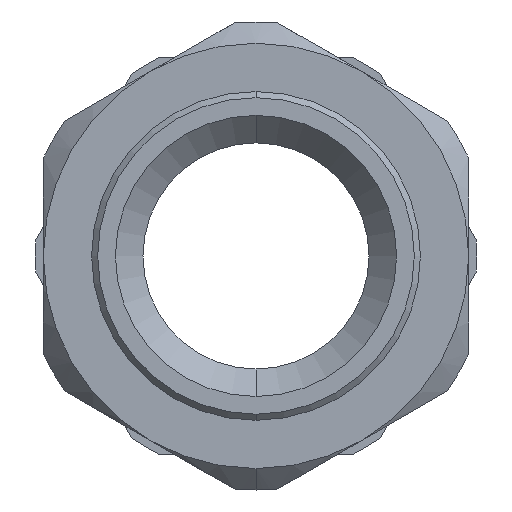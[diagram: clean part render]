
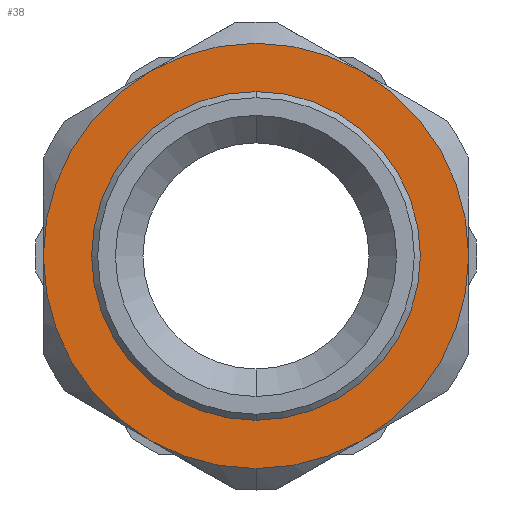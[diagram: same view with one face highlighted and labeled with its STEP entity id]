
A CAD part, front view. The second image highlights one B-rep face of the part: STEP entity #38.
In plain terms, the highlighted planar face has unit normal (0, -1, 0).
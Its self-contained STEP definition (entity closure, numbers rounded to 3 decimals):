
#38 = ADVANCED_FACE ( 'NONE', ( #850, #853 ), #2263, .F. ) ;
#89 = EDGE_CURVE ( 'NONE', #1937, #1948, #1303, .T. ) ;
#90 = EDGE_CURVE ( 'NONE', #1837, #1762, #1302, .T. ) ;
#92 = EDGE_CURVE ( 'NONE', #1842, #1925, #1300, .T. ) ;
#105 = EDGE_CURVE ( 'NONE', #1955, #1941, #1294, .T. ) ;
#110 = EDGE_CURVE ( 'NONE', #1941, #1842, #1292, .T. ) ;
#134 = EDGE_CURVE ( 'NONE', #1925, #1937, #1282, .T. ) ;
#143 = EDGE_CURVE ( 'NONE', #2058, #1955, #1278, .T. ) ;
#167 = EDGE_CURVE ( 'NONE', #1948, #2058, #1267, .T. ) ;
#189 = EDGE_CURVE ( 'NONE', #1762, #1837, #1258, .T. ) ;
#298 = CARTESIAN_POINT ( 'NONE',  ( 8.7, 1., 15.069 ) ) ;
#349 = CARTESIAN_POINT ( 'NONE',  ( -8.7, 1., -15.069 ) ) ;
#362 = DIRECTION ( 'NONE',  ( 0., -1., 0. ) ) ;
#364 = CARTESIAN_POINT ( 'NONE',  ( 0., 1., 0. ) ) ;
#369 = DIRECTION ( 'NONE',  ( 0., 0., -1. ) ) ;
#370 = CARTESIAN_POINT ( 'NONE',  ( 17.4, 1., 0. ) ) ;
#408 = CARTESIAN_POINT ( 'NONE',  ( 8.7, 1., -15.069 ) ) ;
#431 = CARTESIAN_POINT ( 'NONE',  ( 0., 1., -17.4 ) ) ;
#436 = CARTESIAN_POINT ( 'NONE',  ( 0., 1., 13.45 ) ) ;
#447 = CARTESIAN_POINT ( 'NONE',  ( 0., 1., -13.45 ) ) ;
#488 = CARTESIAN_POINT ( 'NONE',  ( -8.7, 1., 15.069 ) ) ;
#773 = CARTESIAN_POINT ( 'NONE',  ( -17.4, 1., 0. ) ) ;
#850 = FACE_BOUND ( 'NONE', #2372, .T. ) ;
#853 = FACE_OUTER_BOUND ( 'NONE', #2368, .T. ) ;
#868 = AXIS2_PLACEMENT_3D ( 'NONE', #2262, #2261, #2260 ) ;
#946 = AXIS2_PLACEMENT_3D ( 'NONE', #364, #362, #369 ) ;
#976 = AXIS2_PLACEMENT_3D ( 'NONE', #1350, #1349, #1348 ) ;
#999 = AXIS2_PLACEMENT_3D ( 'NONE', #1464, #1457, #1456 ) ;
#1010 = AXIS2_PLACEMENT_3D ( 'NONE', #1489, #1488, #1487 ) ;
#1027 = AXIS2_PLACEMENT_3D ( 'NONE', #1570, #1569, #1568 ) ;
#1032 = AXIS2_PLACEMENT_3D ( 'NONE', #1592, #1591, #1590 ) ;
#1044 = AXIS2_PLACEMENT_3D ( 'NONE', #1638, #1637, #1636 ) ;
#1045 = AXIS2_PLACEMENT_3D ( 'NONE', #1644, #1643, #1642 ) ;
#1050 = AXIS2_PLACEMENT_3D ( 'NONE', #1653, #1646, #1645 ) ;
#1258 = CIRCLE ( 'NONE', #946, 13.45 ) ;
#1267 = CIRCLE ( 'NONE', #976, 17.4 ) ;
#1278 = CIRCLE ( 'NONE', #999, 17.4 ) ;
#1282 = CIRCLE ( 'NONE', #1010, 17.4 ) ;
#1292 = CIRCLE ( 'NONE', #1027, 17.4 ) ;
#1294 = CIRCLE ( 'NONE', #1032, 17.4 ) ;
#1300 = CIRCLE ( 'NONE', #1044, 17.4 ) ;
#1302 = CIRCLE ( 'NONE', #1045, 13.45 ) ;
#1303 = CIRCLE ( 'NONE', #1050, 17.4 ) ;
#1348 = DIRECTION ( 'NONE',  ( 0., 0., -1. ) ) ;
#1349 = DIRECTION ( 'NONE',  ( 0., -1., 0. ) ) ;
#1350 = CARTESIAN_POINT ( 'NONE',  ( 0., 1., 0. ) ) ;
#1456 = DIRECTION ( 'NONE',  ( 0., 0., -1. ) ) ;
#1457 = DIRECTION ( 'NONE',  ( 0., -1., 0. ) ) ;
#1464 = CARTESIAN_POINT ( 'NONE',  ( 0., 1., 0. ) ) ;
#1487 = DIRECTION ( 'NONE',  ( 0., 0., -1. ) ) ;
#1488 = DIRECTION ( 'NONE',  ( 0., -1., 0. ) ) ;
#1489 = CARTESIAN_POINT ( 'NONE',  ( 0., 1., 0. ) ) ;
#1568 = DIRECTION ( 'NONE',  ( 0., 0., -1. ) ) ;
#1569 = DIRECTION ( 'NONE',  ( 0., -1., 0. ) ) ;
#1570 = CARTESIAN_POINT ( 'NONE',  ( 0., 1., 0. ) ) ;
#1590 = DIRECTION ( 'NONE',  ( 0., 0., -1. ) ) ;
#1591 = DIRECTION ( 'NONE',  ( 0., -1., 0. ) ) ;
#1592 = CARTESIAN_POINT ( 'NONE',  ( 0., 1., 0. ) ) ;
#1636 = DIRECTION ( 'NONE',  ( 0., 0., -1. ) ) ;
#1637 = DIRECTION ( 'NONE',  ( 0., -1., 0. ) ) ;
#1638 = CARTESIAN_POINT ( 'NONE',  ( 0., 1., 0. ) ) ;
#1642 = DIRECTION ( 'NONE',  ( 0., 0., -1. ) ) ;
#1643 = DIRECTION ( 'NONE',  ( 0., -1., 0. ) ) ;
#1644 = CARTESIAN_POINT ( 'NONE',  ( 0., 1., 0. ) ) ;
#1645 = DIRECTION ( 'NONE',  ( 0., 0., -1. ) ) ;
#1646 = DIRECTION ( 'NONE',  ( 0., -1., 0. ) ) ;
#1653 = CARTESIAN_POINT ( 'NONE',  ( 0., 1., 0. ) ) ;
#1757 = ORIENTED_EDGE ( 'NONE', *, *, #92, .T. ) ;
#1760 = ORIENTED_EDGE ( 'NONE', *, *, #134, .T. ) ;
#1762 = VERTEX_POINT ( 'NONE', #447 ) ;
#1837 = VERTEX_POINT ( 'NONE', #436 ) ;
#1842 = VERTEX_POINT ( 'NONE', #431 ) ;
#1925 = VERTEX_POINT ( 'NONE', #408 ) ;
#1937 = VERTEX_POINT ( 'NONE', #370 ) ;
#1941 = VERTEX_POINT ( 'NONE', #349 ) ;
#1948 = VERTEX_POINT ( 'NONE', #298 ) ;
#1955 = VERTEX_POINT ( 'NONE', #773 ) ;
#2058 = VERTEX_POINT ( 'NONE', #488 ) ;
#2197 = ORIENTED_EDGE ( 'NONE', *, *, #105, .T. ) ;
#2198 = ORIENTED_EDGE ( 'NONE', *, *, #110, .T. ) ;
#2260 = DIRECTION ( 'NONE',  ( 0., 0., 1. ) ) ;
#2261 = DIRECTION ( 'NONE',  ( 0., 1., 0. ) ) ;
#2262 = CARTESIAN_POINT ( 'NONE',  ( -19.15, 1., 0. ) ) ;
#2263 = PLANE ( 'NONE',  #868 ) ;
#2368 = EDGE_LOOP ( 'NONE', ( #2480, #2482, #2481, #2197, #2198, #1757, #1760 ) ) ;
#2372 = EDGE_LOOP ( 'NONE', ( #2478, #2479 ) ) ;
#2478 = ORIENTED_EDGE ( 'NONE', *, *, #189, .F. ) ;
#2479 = ORIENTED_EDGE ( 'NONE', *, *, #90, .F. ) ;
#2480 = ORIENTED_EDGE ( 'NONE', *, *, #89, .T. ) ;
#2481 = ORIENTED_EDGE ( 'NONE', *, *, #143, .T. ) ;
#2482 = ORIENTED_EDGE ( 'NONE', *, *, #167, .T. ) ;
